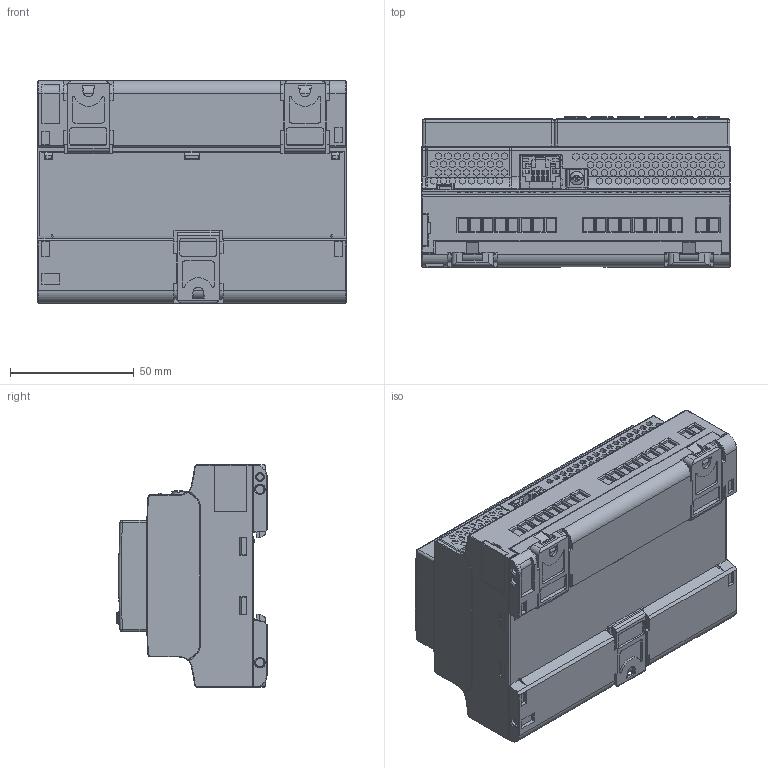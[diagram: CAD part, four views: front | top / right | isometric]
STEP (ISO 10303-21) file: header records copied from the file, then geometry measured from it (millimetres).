
FILE_DESCRIPTION((''),'2;1');
FILE_NAME('11_ETHERNET_SW0003','2016-07-26T',('LPADBY2'),('CROUZET-AUTOMATISMES'),'PRO/ENGINEER BY PARAMETRIC TECHNOLOGY CORPORATION, 2012090','PRO/ENGINEER BY PARAMETRIC TECHNOLOGY CORPORATION, 2012090','');
FILE_SCHEMA(('CONFIG_CONTROL_DESIGN'));
Products named in the file (1): 11_ETHERNET_SW0003
Bounding box: 124.6 x 60.79 x 90.1 mm (x, y, z)
Volume: 512865.5 mm3; surface area: 70226.7 mm2
Topology: 1 solids, 1 shells, 3873 faces, 10147 edges, 6541 vertices
Faces by surface type: plane 2960, cylinder 616, extrusion 112, bspline 73, torus 72, cone 20, sphere 20
Entity records: 130404 total; most frequent: CARTESIAN_POINT 36898, ORIENTED_EDGE 20290, DIRECTION 17412, EDGE_CURVE 10145, VECTOR 7918, LINE 7806, VERTEX_POINT 6541, AXIS2_PLACEMENT_3D 4747
